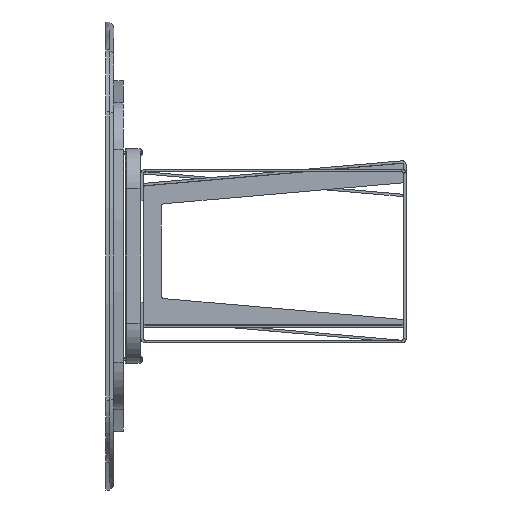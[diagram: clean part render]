
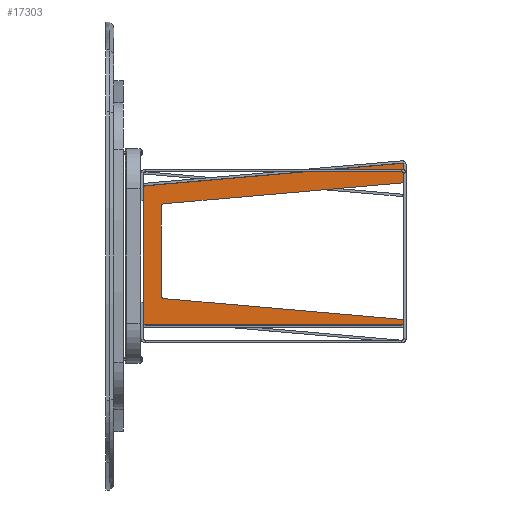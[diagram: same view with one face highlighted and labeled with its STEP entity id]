
A CAD part, left-side view. The second image highlights one B-rep face of the part: STEP entity #17303.
In plain terms, the highlighted planar face has unit normal (-1, 0, 0) as drawn and (0, 0, 1) by its records, which use the part's own axes.
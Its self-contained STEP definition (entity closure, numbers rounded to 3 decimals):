
#6 = DIRECTION ( 'NONE',  ( 0., 0., 1. ) ) ;
#219 = CARTESIAN_POINT ( 'NONE',  ( 174.976, 668.5, 15. ) ) ;
#231 = VERTEX_POINT ( 'NONE', #2980 ) ;
#379 = DIRECTION ( 'NONE',  ( 0., 0., -1. ) ) ;
#697 = VERTEX_POINT ( 'NONE', #16947 ) ;
#734 = DIRECTION ( 'NONE',  ( 1., 0., 0. ) ) ;
#751 = EDGE_CURVE ( 'NONE', #5441, #7609, #10558, .T. ) ;
#831 = VECTOR ( 'NONE', #17316, 1000. ) ;
#1017 = DIRECTION ( 'NONE',  ( 0., 0., 1. ) ) ;
#1099 = VERTEX_POINT ( 'NONE', #14978 ) ;
#1758 = CARTESIAN_POINT ( 'NONE',  ( -176.5, 668.5, 15. ) ) ;
#2027 = CARTESIAN_POINT ( 'NONE',  ( 232.456, 6.5, 15. ) ) ;
#2082 = LINE ( 'NONE', #3323, #18649 ) ;
#2243 = AXIS2_PLACEMENT_3D ( 'NONE', #15449, #1017, #2770 ) ;
#2303 = DIRECTION ( 'NONE',  ( 1., 0., 0. ) ) ;
#2315 = EDGE_CURVE ( 'NONE', #8975, #231, #8688, .T. ) ;
#2332 = ORIENTED_EDGE ( 'NONE', *, *, #14186, .T. ) ;
#2372 = EDGE_CURVE ( 'NONE', #697, #13584, #8383, .T. ) ;
#2770 = DIRECTION ( 'NONE',  ( 1., 0., 0. ) ) ;
#2845 = DIRECTION ( 'NONE',  ( -0.087, -0.996, 0. ) ) ;
#2924 = EDGE_CURVE ( 'NONE', #1099, #3582, #12061, .T. ) ;
#2954 = CIRCLE ( 'NONE', #17102, 5. ) ;
#2980 = CARTESIAN_POINT ( 'NONE',  ( -101.213, 628.5, 15. ) ) ;
#3000 = CARTESIAN_POINT ( 'NONE',  ( 125.973, 628.5, 15. ) ) ;
#3323 = CARTESIAN_POINT ( 'NONE',  ( -176.5, 11., 15. ) ) ;
#3347 = VERTEX_POINT ( 'NONE', #5754 ) ;
#3582 = VERTEX_POINT ( 'NONE', #2027 ) ;
#3629 = CARTESIAN_POINT ( 'NONE',  ( -101.213, 620.5, 15. ) ) ;
#4273 = CARTESIAN_POINT ( 'NONE',  ( -177., 673.5, 15. ) ) ;
#4358 = AXIS2_PLACEMENT_3D ( 'NONE', #219, #6, #6518 ) ;
#4604 = EDGE_CURVE ( 'NONE', #3347, #13584, #7587, .T. ) ;
#4742 = LINE ( 'NONE', #11028, #831 ) ;
#4987 = AXIS2_PLACEMENT_3D ( 'NONE', #18329, #5635, #10266 ) ;
#5284 = CARTESIAN_POINT ( 'NONE',  ( 0., 628.5, 15. ) ) ;
#5363 = VECTOR ( 'NONE', #13436, 1000. ) ;
#5417 = ORIENTED_EDGE ( 'NONE', *, *, #17418, .T. ) ;
#5441 = VERTEX_POINT ( 'NONE', #12067 ) ;
#5633 = EDGE_CURVE ( 'NONE', #6352, #13205, #4742, .T. ) ;
#5635 = DIRECTION ( 'NONE',  ( 0., 0., -1. ) ) ;
#5754 = CARTESIAN_POINT ( 'NONE',  ( -109.183, 621.197, 15. ) ) ;
#6017 = DIRECTION ( 'NONE',  ( -1., 0., 0. ) ) ;
#6248 = ORIENTED_EDGE ( 'NONE', *, *, #16814, .T. ) ;
#6288 = VECTOR ( 'NONE', #6017, 1000. ) ;
#6352 = VERTEX_POINT ( 'NONE', #11465 ) ;
#6401 = EDGE_CURVE ( 'NONE', #10336, #14908, #2082, .T. ) ;
#6518 = DIRECTION ( 'NONE',  ( 1., 0., 0. ) ) ;
#6679 = DIRECTION ( 'NONE',  ( 1., 0., 0. ) ) ;
#7070 = ORIENTED_EDGE ( 'NONE', *, *, #13891, .T. ) ;
#7099 = ORIENTED_EDGE ( 'NONE', *, *, #4604, .F. ) ;
#7289 = AXIS2_PLACEMENT_3D ( 'NONE', #14518, #379, #6679 ) ;
#7587 = LINE ( 'NONE', #12221, #19243 ) ;
#7609 = VERTEX_POINT ( 'NONE', #19033 ) ;
#8220 = FACE_OUTER_BOUND ( 'NONE', #19602, .T. ) ;
#8383 = LINE ( 'NONE', #19723, #10308 ) ;
#8635 = ORIENTED_EDGE ( 'NONE', *, *, #5633, .T. ) ;
#8688 = LINE ( 'NONE', #5284, #5363 ) ;
#8719 = ORIENTED_EDGE ( 'NONE', *, *, #14402, .T. ) ;
#8878 = CIRCLE ( 'NONE', #13160, 5. ) ;
#8912 = ORIENTED_EDGE ( 'NONE', *, *, #6401, .T. ) ;
#8975 = VERTEX_POINT ( 'NONE', #3000 ) ;
#9350 = VECTOR ( 'NONE', #10514, 1000. ) ;
#9670 = ORIENTED_EDGE ( 'NONE', *, *, #12711, .T. ) ;
#10266 = DIRECTION ( 'NONE',  ( 1., 0., 0. ) ) ;
#10306 = CARTESIAN_POINT ( 'NONE',  ( 238.457, 6.5, 15. ) ) ;
#10308 = VECTOR ( 'NONE', #2303, 1000. ) ;
#10336 = VERTEX_POINT ( 'NONE', #1758 ) ;
#10514 = DIRECTION ( 'NONE',  ( 1., 0., 0. ) ) ;
#10558 = LINE ( 'NONE', #4273, #6288 ) ;
#10570 = ORIENTED_EDGE ( 'NONE', *, *, #2315, .F. ) ;
#11028 = CARTESIAN_POINT ( 'NONE',  ( 179.514, 674., 15. ) ) ;
#11464 = DIRECTION ( 'NONE',  ( 0., 0., 1. ) ) ;
#11465 = CARTESIAN_POINT ( 'NONE',  ( 237.437, 11.936, 15. ) ) ;
#11830 = LINE ( 'NONE', #18129, #14829 ) ;
#11844 = AXIS2_PLACEMENT_3D ( 'NONE', #3629, #14864, #734 ) ;
#11995 = CARTESIAN_POINT ( 'NONE',  ( -162.962, 6.5, 15. ) ) ;
#12061 = LINE ( 'NONE', #10306, #9350 ) ;
#12067 = CARTESIAN_POINT ( 'NONE',  ( 174.976, 673.5, 15. ) ) ;
#12221 = CARTESIAN_POINT ( 'NONE',  ( -162.284, 14.242, 15. ) ) ;
#12373 = ORIENTED_EDGE ( 'NONE', *, *, #13849, .T. ) ;
#12376 = CARTESIAN_POINT ( 'NONE',  ( 232.456, 11.5, 15. ) ) ;
#12511 = ORIENTED_EDGE ( 'NONE', *, *, #751, .T. ) ;
#12711 = EDGE_CURVE ( 'NONE', #7609, #10336, #20020, .T. ) ;
#13026 = CARTESIAN_POINT ( 'NONE',  ( 133.943, 621.197, 15. ) ) ;
#13065 = ORIENTED_EDGE ( 'NONE', *, *, #2924, .T. ) ;
#13160 = AXIS2_PLACEMENT_3D ( 'NONE', #12376, #18671, #14618 ) ;
#13205 = VERTEX_POINT ( 'NONE', #16767 ) ;
#13252 = CIRCLE ( 'NONE', #4358, 5. ) ;
#13436 = DIRECTION ( 'NONE',  ( -1., 0., 0. ) ) ;
#13584 = VERTEX_POINT ( 'NONE', #11995 ) ;
#13849 = EDGE_CURVE ( 'NONE', #3347, #231, #20064, .T. ) ;
#13891 = EDGE_CURVE ( 'NONE', #14908, #697, #2954, .T. ) ;
#14186 = EDGE_CURVE ( 'NONE', #3582, #6352, #8878, .T. ) ;
#14362 = DIRECTION ( 'NONE',  ( 0., -1., 0. ) ) ;
#14402 = EDGE_CURVE ( 'NONE', #16428, #1099, #11830, .T. ) ;
#14518 = CARTESIAN_POINT ( 'NONE',  ( 0., 0., 15. ) ) ;
#14618 = DIRECTION ( 'NONE',  ( 1., 0., 0. ) ) ;
#14761 = CARTESIAN_POINT ( 'NONE',  ( -171.5, 11.5, 15. ) ) ;
#14829 = VECTOR ( 'NONE', #16569, 1000. ) ;
#14864 = DIRECTION ( 'NONE',  ( 0., 0., -1. ) ) ;
#14908 = VERTEX_POINT ( 'NONE', #16750 ) ;
#14978 = CARTESIAN_POINT ( 'NONE',  ( 187.722, 6.5, 15. ) ) ;
#15449 = CARTESIAN_POINT ( 'NONE',  ( -171.5, 668.5, 15. ) ) ;
#15863 = CIRCLE ( 'NONE', #4987, 8. ) ;
#16428 = VERTEX_POINT ( 'NONE', #13026 ) ;
#16569 = DIRECTION ( 'NONE',  ( 0.087, -0.996, 0. ) ) ;
#16750 = CARTESIAN_POINT ( 'NONE',  ( -176.5, 11.5, 15. ) ) ;
#16767 = CARTESIAN_POINT ( 'NONE',  ( 179.957, 668.936, 15. ) ) ;
#16814 = EDGE_CURVE ( 'NONE', #13205, #5441, #13252, .T. ) ;
#16947 = CARTESIAN_POINT ( 'NONE',  ( -171.5, 6.5, 15. ) ) ;
#17102 = AXIS2_PLACEMENT_3D ( 'NONE', #14761, #11464, #19607 ) ;
#17303 = ADVANCED_FACE ( 'NONE', ( #8220 ), #17498, .F. ) ;
#17316 = DIRECTION ( 'NONE',  ( -0.087, 0.996, 0. ) ) ;
#17418 = EDGE_CURVE ( 'NONE', #8975, #16428, #15863, .T. ) ;
#17498 = PLANE ( 'NONE',  #7289 ) ;
#18129 = CARTESIAN_POINT ( 'NONE',  ( 186.856, 16.392, 15. ) ) ;
#18329 = CARTESIAN_POINT ( 'NONE',  ( 125.973, 620.5, 15. ) ) ;
#18649 = VECTOR ( 'NONE', #14362, 1000. ) ;
#18671 = DIRECTION ( 'NONE',  ( 0., 0., 1. ) ) ;
#19033 = CARTESIAN_POINT ( 'NONE',  ( -171.5, 673.5, 15. ) ) ;
#19243 = VECTOR ( 'NONE', #2845, 1000. ) ;
#19602 = EDGE_LOOP ( 'NONE', ( #13065, #2332, #8635, #6248, #12511, #9670, #8912, #7070, #19624, #7099, #12373, #10570, #5417, #8719 ) ) ;
#19607 = DIRECTION ( 'NONE',  ( 1., 0., 0. ) ) ;
#19624 = ORIENTED_EDGE ( 'NONE', *, *, #2372, .T. ) ;
#19723 = CARTESIAN_POINT ( 'NONE',  ( 238.457, 6.5, 15. ) ) ;
#20020 = CIRCLE ( 'NONE', #2243, 5. ) ;
#20064 = CIRCLE ( 'NONE', #11844, 8. ) ;
